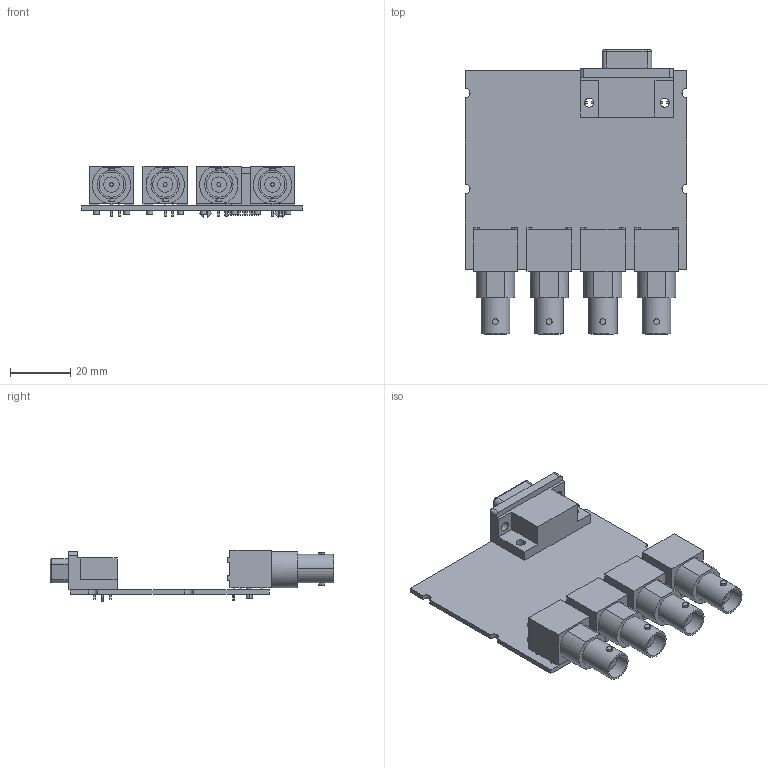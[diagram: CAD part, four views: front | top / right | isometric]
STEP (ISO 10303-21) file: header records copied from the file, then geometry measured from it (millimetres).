
FILE_DESCRIPTION((''),'2;1');
FILE_NAME('4BNC','2010-02-12T',('scarrasc'),(''),'PRO/ENGINEER BY PARAMETRIC TECHNOLOGY CORPORATION, 2006080','PRO/ENGINEER BY PARAMETRIC TECHNOLOGY CORPORATION, 2006080','');
FILE_SCHEMA(('CONFIG_CONTROL_DESIGN'));
Length unit declared in the file: inch
Products named in the file (1): 4BNC
Bounding box: 73.38 x 94.06 x 17.22 mm (x, y, z)
Volume: 28928 mm3; surface area: 21066.6 mm2
Topology: 5 solids, 5 shells, 592 faces, 1438 edges, 944 vertices
Faces by surface type: plane 340, cylinder 218, cone 30, torus 4
Entity records: 17716 total; most frequent: CARTESIAN_POINT 3246, DIRECTION 3064, ORIENTED_EDGE 2876, EDGE_CURVE 1438, AXIS2_PLACEMENT_3D 1050, VECTOR 964, LINE 964, VERTEX_POINT 944
